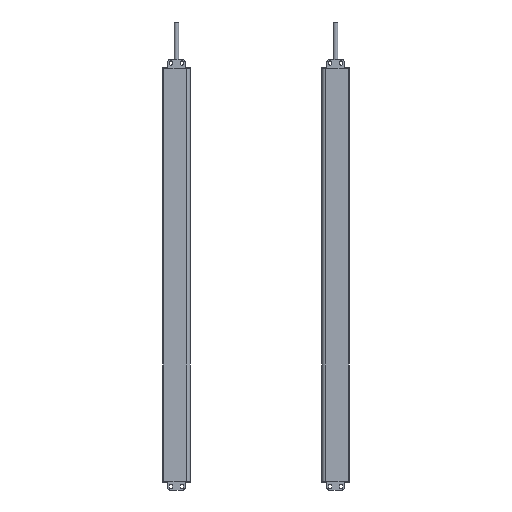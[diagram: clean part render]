
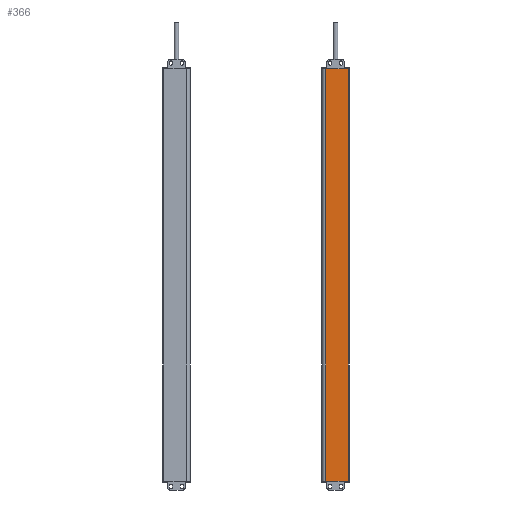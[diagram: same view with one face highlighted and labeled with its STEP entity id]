
A CAD part, front view. The second image highlights one B-rep face of the part: STEP entity #366.
In plain terms, the highlighted planar face has unit normal (0, -1, 0).
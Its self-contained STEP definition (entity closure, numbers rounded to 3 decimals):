
#123=PLANE('',#5869);
#366=ADVANCED_FACE('',(#797),#123,.T.);
#797=FACE_OUTER_BOUND('',#1073,.T.);
#1073=EDGE_LOOP('',(#1780,#1781,#1782,#1783));
#1780=ORIENTED_EDGE('',*,*,#3977,.T.);
#1781=ORIENTED_EDGE('',*,*,#3978,.F.);
#1782=ORIENTED_EDGE('',*,*,#3979,.F.);
#1783=ORIENTED_EDGE('',*,*,#3903,.T.);
#3351=VERTEX_POINT('',#8106);
#3352=VERTEX_POINT('',#8108);
#3421=VERTEX_POINT('',#8253);
#3422=VERTEX_POINT('',#8257);
#3903=EDGE_CURVE('',#3352,#3351,#4726,.T.);
#3977=EDGE_CURVE('',#3351,#3421,#4771,.T.);
#3978=EDGE_CURVE('',#3422,#3421,#4772,.T.);
#3979=EDGE_CURVE('',#3352,#3422,#4773,.T.);
#4726=LINE('',#8107,#5280);
#4771=LINE('',#8254,#5325);
#4772=LINE('',#8256,#5326);
#4773=LINE('',#8258,#5327);
#5280=VECTOR('',#6413,1.);
#5325=VECTOR('',#6522,1.);
#5326=VECTOR('',#6525,1.);
#5327=VECTOR('',#6526,1.);
#5869=AXIS2_PLACEMENT_3D('',#8259,#6527,#6528);
#6413=DIRECTION('',(1.,0.,0.));
#6522=DIRECTION('',(0.,0.,1.));
#6525=DIRECTION('',(1.,0.,0.));
#6526=DIRECTION('',(0.,0.,1.));
#6527=DIRECTION('',(0.,-1.,0.));
#6528=DIRECTION('',(-1.,0.,0.));
#8106=CARTESIAN_POINT('',(3.35,-1.3,-100.));
#8107=CARTESIAN_POINT('',(-21.15,-1.3,-100.));
#8108=CARTESIAN_POINT('',(-21.15,-1.3,-100.));
#8253=CARTESIAN_POINT('',(3.35,-1.3,342.));
#8254=CARTESIAN_POINT('',(3.35,-1.3,-100.));
#8256=CARTESIAN_POINT('',(-4122.897,-1.3,342.));
#8257=CARTESIAN_POINT('',(-21.15,-1.3,342.));
#8258=CARTESIAN_POINT('',(-21.15,-1.3,-100.));
#8259=CARTESIAN_POINT('',(-21.15,-1.3,-100.));
